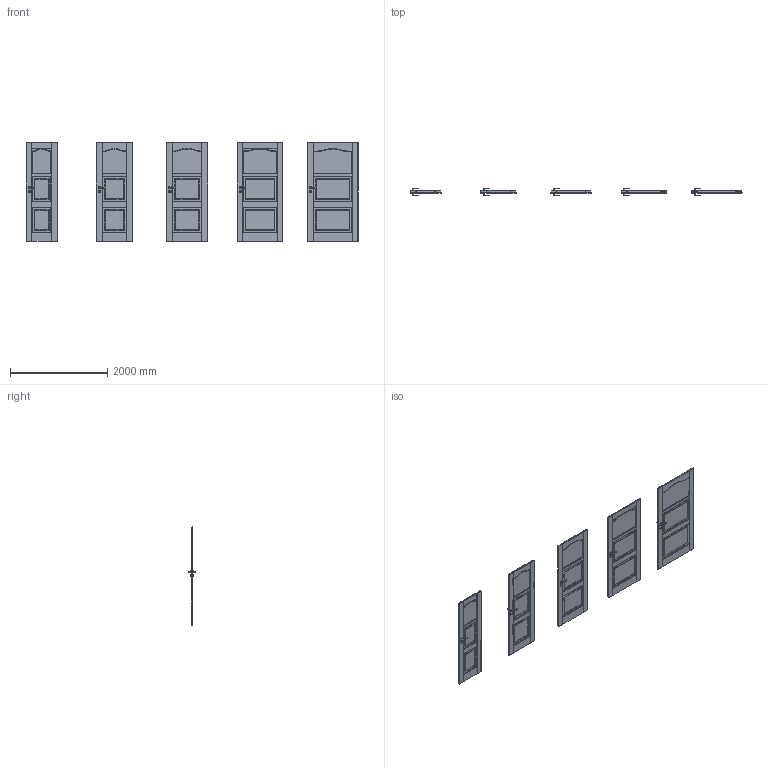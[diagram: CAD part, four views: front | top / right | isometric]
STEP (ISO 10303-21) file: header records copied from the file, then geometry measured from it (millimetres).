
FILE_DESCRIPTION(/* description */ (''),/* implementation_level */ '2;1');
FILE_NAME(/* name */ '050259_A_2-Skrzydło MADRYT model małe okienko_ polska norma _PN__ przylgowe..stp',/* time_stamp */ '2025-01-31T09:11:44+01:00',/* author */ (''),/* organization */ (''),/* preprocessor_version */ 'ST-DEVELOPER v16',/* originating_system */ 'SIEMENS PLM Software NX 11.0',/* authorisation */ '');
FILE_SCHEMA (('AUTOMOTIVE_DESIGN { 1 0 10303 214 3 1 1 1 }'));
Products named in the file (1): bkni4E08F41Bxz5w
Bounding box: 6844 x 153.13 x 2030 mm (x, y, z)
Volume: 208396058.2 mm3; surface area: 26026127 mm2
Topology: 73 solids, 73 shells, 4438 faces, 11395 edges, 6907 vertices
Faces by surface type: plane 2100, cylinder 1531, bspline 667, sphere 140
Entity records: 145252 total; most frequent: CARTESIAN_POINT 45402, ORIENTED_EDGE 22510, DIRECTION 18018, EDGE_CURVE 11255, LINE 7076, VECTOR 7076, VERTEX_POINT 6907, AXIS2_PLACEMENT_3D 5471
